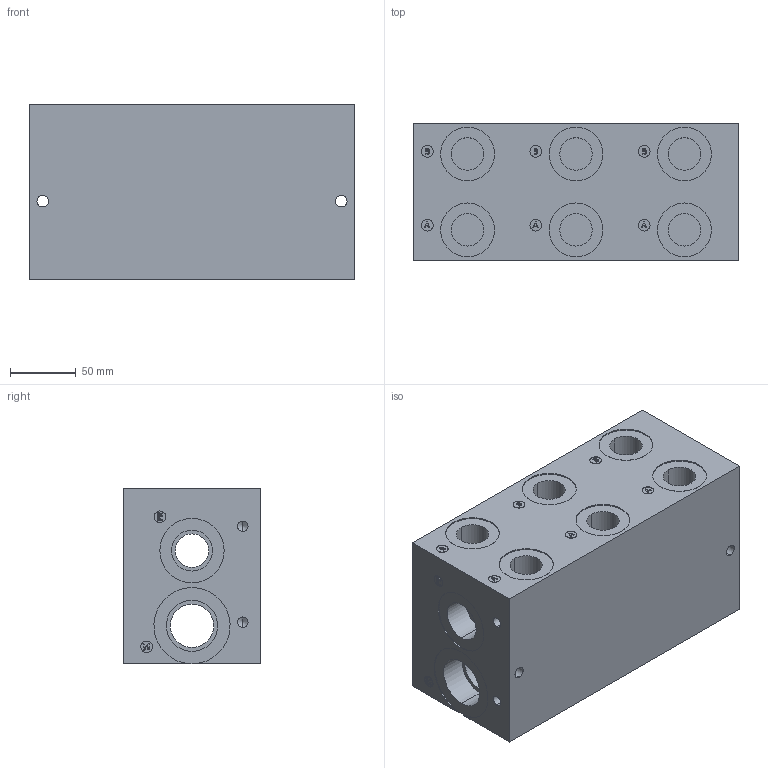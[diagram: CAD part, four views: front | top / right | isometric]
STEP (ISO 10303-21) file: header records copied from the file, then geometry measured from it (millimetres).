
FILE_DESCRIPTION (( 'STEP AP203' ), '1' );
FILE_NAME ('BM-AHP05S3-03-1_Z.STEP', '2015-01-06T16:00:00', ( '' ), ( '' ), 'SwSTEP 2.0', 'SolidWorks 2014', '' );
FILE_SCHEMA (( 'CONFIG_CONTROL_DESIGN' ));
Length unit declared in the file: inch
Products named in the file (1): BM-AHP05S3-03-1_Z
Bounding box: 247.65 x 104.65 x 133.35 mm (x, y, z)
Volume: 3001459.9 mm3; surface area: 214186.1 mm2
Topology: 1 solids, 1 shells, 465 faces, 1126 edges, 704 vertices
Faces by surface type: plane 211, cylinder 151, cone 56, bspline 47
Entity records: 15935 total; most frequent: CARTESIAN_POINT 5287, ORIENTED_EDGE 2140, DIRECTION 2116, EDGE_CURVE 1070, AXIS2_PLACEMENT_3D 721, VERTEX_POINT 704, VECTOR 674, LINE 674
